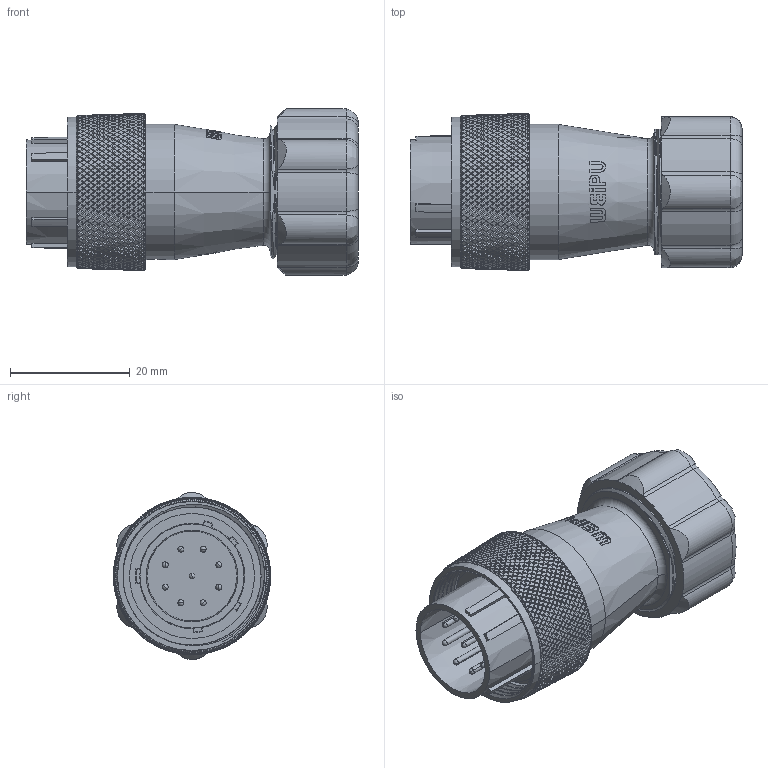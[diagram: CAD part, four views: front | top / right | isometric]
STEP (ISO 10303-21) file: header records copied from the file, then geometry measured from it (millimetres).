
FILE_DESCRIPTION((''),'2;1');
FILE_NAME('PRT0002','2016-04-06T',('Administrator'),(''),'PRO/ENGINEER BY PARAMETRIC TECHNOLOGY CORPORATION, 2015240','PRO/ENGINEER BY PARAMETRIC TECHNOLOGY CORPORATION, 2015240','');
FILE_SCHEMA(('CONFIG_CONTROL_DESIGN'));
Products named in the file (1): PRT0002
Bounding box: 55.5 x 26.28 x 27.9 mm (x, y, z)
Volume: 15501.4 mm3; surface area: 10128.1 mm2
Topology: 1 solids, 2 shells, 8103 faces, 17024 edges, 8927 vertices
Faces by surface type: bspline 6128, cone 1719, cylinder 93, plane 86, extrusion 33, torus 26, sphere 18
Entity records: 315395 total; most frequent: CARTESIAN_POINT 191706, ORIENTED_EDGE 34012, EDGE_CURVE 17006, B_SPLINE_CURVE_WITH_KNOTS 13206, VERTEX_POINT 8927, DIRECTION 8363, EDGE_LOOP 8143, FACE_OUTER_BOUND 8103
